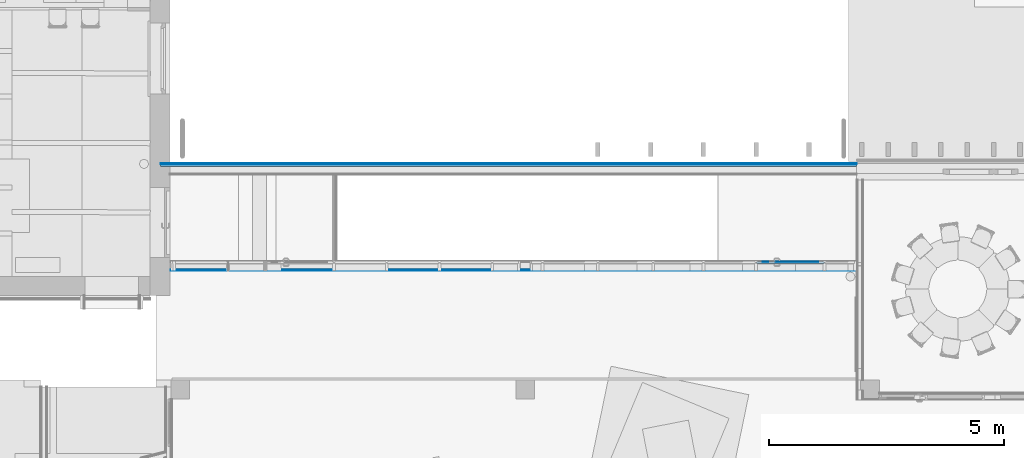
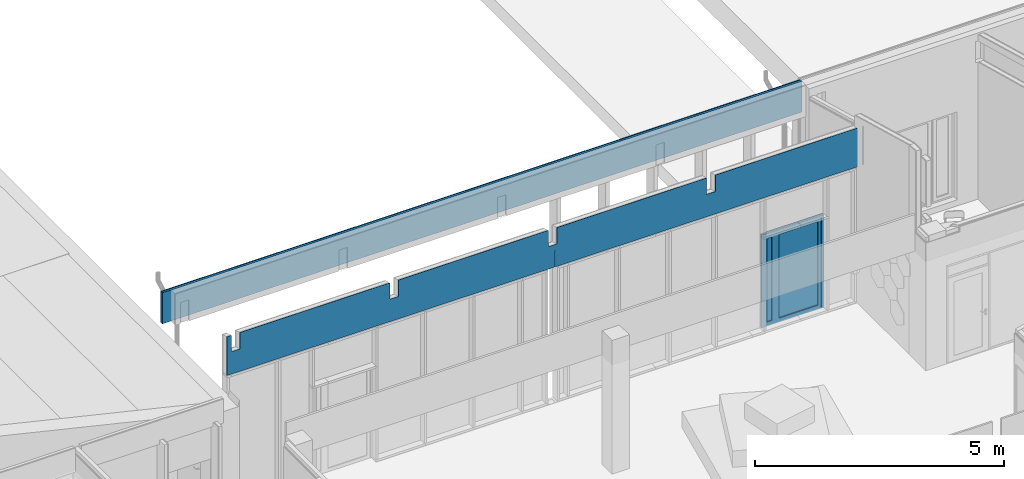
# One storey, part 64 of 153: 6 building element parts, 4 elements without a shape of their own.
"""IFC2X3 building model written with IfcOpenShell, lengths in millimetres."""

from ifc_helpers import new_model, entity, si_unit, converted_unit, derived_unit, money_unit, direction, frame, origin_with_axes, place, context, subcontext, project, spatial, faceted_brep, material, type_object, element, aggregate, save


model = new_model("IFC2X3")

# Units and contexts
model_context = context("Model", 3, precision=0.01, world=origin_with_axes(), true_north=direction((0.0, 1.0)))
body_context = subcontext(model_context, "Body", "Model", "MODEL_VIEW")
ifc_project = project(units=[si_unit("LENGTHUNIT", "METRE", prefix="MILLI"), si_unit("AREAUNIT", "SQUARE_METRE"), si_unit("VOLUMEUNIT", "CUBIC_METRE"), converted_unit("PLANEANGLEUNIT", "DEGREE", entity("IfcPlaneAngleMeasure", 0.0174532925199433), si_unit("PLANEANGLEUNIT", "RADIAN"), dimensions=[0, 0, 0, 0, 0, 0, 0]), money_unit("EUR"), converted_unit("TIMEUNIT", "Year", entity("IfcTimeMeasure", 31557600.0), si_unit("TIMEUNIT", "SECOND"), dimensions=[0, 0, 1, 0, 0, 0, 0]), si_unit("MASSUNIT", "GRAM", prefix="KILO"), si_unit("THERMODYNAMICTEMPERATUREUNIT", "DEGREE_CELSIUS"), si_unit("LUMINOUSINTENSITYUNIT", "LUMEN"), si_unit("ENERGYUNIT", "JOULE", prefix="MEGA"), derived_unit("THERMALCONDUCTANCEUNIT", [(si_unit("POWERUNIT", "WATT"), 1), (si_unit("LENGTHUNIT", "METRE"), -1), (si_unit("THERMODYNAMICTEMPERATUREUNIT", "KELVIN"), -1)]), derived_unit("SPECIFICHEATCAPACITYUNIT", [(si_unit("ENERGYUNIT", "JOULE"), 1), (si_unit("MASSUNIT", "GRAM", prefix="KILO"), -1), (si_unit("THERMODYNAMICTEMPERATUREUNIT", "KELVIN"), -1)]), derived_unit("MASSDENSITYUNIT", [(si_unit("MASSUNIT", "GRAM", prefix="KILO"), 1), (si_unit("VOLUMEUNIT", "CUBIC_METRE"), -1)])], contexts=[model_context])

# Site, building, storey
site_placement = place(None, frame((0.0, 0.0, 8650.0), z_axis=(0.0, 0.0, 1.0), x_axis=(1.0, 0.0, 0.0)))
site = spatial("IfcSite", under=ifc_project, at=site_placement, Name="43301:001:0844", CompositionType="ELEMENT")
building_placement = place(site_placement, origin_with_axes())
building = spatial("IfcBuilding", under=site, at=building_placement, Name="Kuressaare Ametikooli tuulikute mehaanikute õppekorpus", CompositionType="ELEMENT")
storey_placement = place(building_placement, frame((0.0, 0.0, 4100.0), z_axis=(0.0, 0.0, 1.0), x_axis=(1.0, 0.0, 0.0)))
storey = spatial("IfcBuildingStorey", under=building, at=storey_placement, Name="2.korrus", CompositionType="ELEMENT", Elevation=4100.0)

# Curtain wall, door, building element parts
curtain_wall_type = type_object("IfcCurtainWallType", Name="Curtain Wall Type", PredefinedType="NOTDEFINED")
curtain_wall_placement = place(storey_placement, frame((116907.3849272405, 26479.57374875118, 34.9999663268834), z_axis=(0.0, 0.0, 1.0), x_axis=(1.0, 0.0, 0.0)))
curtain_wall = element("IfcCurtainWall", 1, at=curtain_wall_placement, inside=storey, type_object=curtain_wall_type, Name="SKF-2.2,EI60")
door_style = type_object("IfcDoorStyle", Name="831 x 2290 x 40", ConstructionType="NOTDEFINED", OperationType="DOUBLE_DOOR_SINGLE_SWING", ParameterTakesPrecedence=False, Sizeable=False)
door_placement = place(curtain_wall_placement, frame((-2.12558859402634e-06, 0.0, 1150.00001559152), z_axis=(0.0, 0.0, 1.0), x_axis=(1.0, 0.0, 0.0)))
door = element("IfcDoor", 2, at=door_placement, type_object=door_style, Name="AKU10+4,EI30", OverallHeight=2250.0, OverallWidth=1410.0)
aggregate(curtain_wall, [door])
ifc_material_1 = material(Name="Aluminium")
building_element_part_1_placement = place(door_placement, origin_with_axes())
building_element_part_1 = element("IfcBuildingElementPart", 3, at=building_element_part_1_placement, material=ifc_material_1, Name="Aluminium", context=body_context, shape_type="Brep", body=[
    faceted_brep([(669.7177982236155, -25.00000000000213, -1125.000031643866), (669.7177982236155, -20.00000000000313, -1125.000031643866), (669.7177982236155, -20.00000000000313, 1125.000031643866), (669.7177982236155, -25.00000000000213, 1125.000031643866), (624.7177982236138, -25.00000000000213, -1125.000031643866), (624.7177982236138, -20.00000000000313, -1125.000031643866), (624.7177982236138, -20.00000000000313, 1080.000031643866), (624.7177982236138, -25.00000000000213, 1080.000031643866)], [[[0, 1, 2, 3]], [[4, 5, 1, 0]], [[1, 5, 6, 2]], [[3, 2, 6, 7]], [[0, 3, 7, 4]], [[7, 6, 5, 4]]]),
    faceted_brep([(-740.2822492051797, -25.00000000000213, 1125.000031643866), (-740.2822492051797, -20.00000000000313, 1125.000031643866), (-695.282249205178, -20.00000000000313, 1080.000031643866), (-695.282249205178, -25.00000000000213, 1080.000031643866), (669.7177982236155, -25.00000000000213, 1125.000031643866), (669.7177982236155, -20.00000000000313, 1125.000031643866), (624.7177982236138, -20.00000000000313, 1080.000031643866), (624.7177982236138, -25.00000000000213, 1080.000031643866)], [[[0, 1, 2, 3]], [[4, 5, 1, 0]], [[1, 5, 6, 2]], [[3, 2, 6, 7]], [[0, 3, 7, 4]], [[7, 6, 5, 4]]]),
    faceted_brep([(-740.2822492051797, -25.00000000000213, -1125.000031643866), (-740.2822492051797, -20.00000000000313, -1125.000031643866), (-695.282249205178, -20.00000000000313, -1125.000031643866), (-695.282249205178, -25.00000000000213, -1125.000031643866), (-740.2822492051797, -25.00000000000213, 1125.000031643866), (-740.2822492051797, -20.00000000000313, 1125.000031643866), (-695.282249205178, -20.00000000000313, 1080.000031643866), (-695.282249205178, -25.00000000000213, 1080.000031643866)], [[[0, 1, 2, 3]], [[4, 5, 1, 0]], [[1, 5, 6, 2]], [[3, 2, 6, 7]], [[0, 3, 7, 4]], [[7, 6, 5, 4]]]),
    faceted_brep([(669.7177982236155, -20.00000000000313, -1125.000031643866), (669.7177982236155, 29.99999999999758, -1125.000031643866), (669.7177982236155, 29.99999999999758, 1125.000031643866), (669.7177982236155, -20.00000000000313, 1125.000031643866), (634.717798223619, -20.00000000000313, -1125.000031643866), (634.717798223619, 29.99999999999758, -1125.000031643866), (634.717798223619, 29.99999999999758, 1090.000031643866), (634.717798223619, -20.00000000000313, 1090.000031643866)], [[[0, 1, 2, 3]], [[4, 5, 1, 0]], [[1, 5, 6, 2]], [[3, 2, 6, 7]], [[0, 3, 7, 4]], [[7, 6, 5, 4]]]),
    faceted_brep([(-740.2822492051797, -20.00000000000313, 1125.000031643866), (-740.2822492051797, 29.99999999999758, 1125.000031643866), (-705.2822492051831, 29.99999999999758, 1090.000031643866), (-705.2822492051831, -20.00000000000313, 1090.000031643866), (669.7177982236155, -20.00000000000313, 1125.000031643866), (669.7177982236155, 29.99999999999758, 1125.000031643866), (634.717798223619, 29.99999999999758, 1090.000031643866), (634.717798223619, -20.00000000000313, 1090.000031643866)], [[[0, 1, 2, 3]], [[4, 5, 1, 0]], [[1, 5, 6, 2]], [[3, 2, 6, 7]], [[0, 3, 7, 4]], [[7, 6, 5, 4]]]),
    faceted_brep([(-740.2822492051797, -20.00000000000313, -1125.000031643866), (-740.2822492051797, 29.99999999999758, -1125.000031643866), (-705.2822492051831, 29.99999999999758, -1125.000031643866), (-705.2822492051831, -20.00000000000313, -1125.000031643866), (-740.2822492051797, -20.00000000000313, 1125.000031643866), (-740.2822492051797, 29.99999999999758, 1125.000031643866), (-705.2822492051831, 29.99999999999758, 1090.000031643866), (-705.2822492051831, -20.00000000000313, 1090.000031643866)], [[[0, 1, 2, 3]], [[4, 5, 1, 0]], [[1, 5, 6, 2]], [[3, 2, 6, 7]], [[0, 3, 7, 4]], [[7, 6, 5, 4]]]),
    faceted_brep([(-760.2822226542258, -20.00000000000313, -1145.000005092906), (-760.2822226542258, 19.99999999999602, -1145.000005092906), (689.7177716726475, 19.99999999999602, -1145.000005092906), (689.7177716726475, -20.00000000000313, -1145.000005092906), (-740.2822492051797, -20.00000000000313, -1125.000031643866), (-740.2822492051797, 19.99999999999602, -1125.000031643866), (669.7177982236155, 19.99999999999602, -1125.000031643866), (669.7177982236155, -20.00000000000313, -1125.000031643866)], [[[0, 1, 2, 3]], [[4, 5, 1, 0]], [[1, 5, 6, 2]], [[3, 2, 6, 7]], [[0, 3, 7, 4]], [[7, 6, 5, 4]]]),
    faceted_brep([(689.7177716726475, -20.00000000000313, -1145.000005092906), (689.7177716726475, 19.99999999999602, -1145.000005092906), (689.7177716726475, 19.99999999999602, 1145.000005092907), (689.7177716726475, -20.00000000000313, 1145.000005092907), (669.7177982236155, -20.00000000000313, -1125.000031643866), (669.7177982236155, 19.99999999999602, -1125.000031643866), (669.7177982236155, 19.99999999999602, 1125.000031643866), (669.7177982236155, -20.00000000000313, 1125.000031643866)], [[[0, 1, 2, 3]], [[4, 5, 1, 0]], [[1, 5, 6, 2]], [[3, 2, 6, 7]], [[0, 3, 7, 4]], [[7, 6, 5, 4]]]),
    faceted_brep([(689.7177716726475, -20.00000000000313, 1145.000005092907), (689.7177716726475, 19.99999999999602, 1145.000005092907), (-760.2822226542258, 19.99999999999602, 1145.000005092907), (-760.2822226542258, -20.00000000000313, 1145.000005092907), (669.7177982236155, -20.00000000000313, 1125.000031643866), (669.7177982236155, 19.99999999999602, 1125.000031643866), (-740.2822492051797, 19.99999999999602, 1125.000031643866), (-740.2822492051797, -20.00000000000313, 1125.000031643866)], [[[0, 1, 2, 3]], [[4, 5, 1, 0]], [[1, 5, 6, 2]], [[3, 2, 6, 7]], [[0, 3, 7, 4]], [[7, 6, 5, 4]]]),
    faceted_brep([(-760.2822226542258, -20.00000000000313, 1145.000005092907), (-760.2822226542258, 19.99999999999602, 1145.000005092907), (-760.2822226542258, 19.99999999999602, -1145.000005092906), (-760.2822226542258, -20.00000000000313, -1145.000005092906), (-740.2822492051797, -20.00000000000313, 1125.000031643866), (-740.2822492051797, 19.99999999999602, 1125.000031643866), (-740.2822492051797, 19.99999999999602, -1125.000031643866), (-740.2822492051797, -20.00000000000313, -1125.000031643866)], [[[0, 1, 2, 3]], [[4, 5, 1, 0]], [[1, 5, 6, 2]], [[3, 2, 6, 7]], [[0, 3, 7, 4]], [[7, 6, 5, 4]]]),
    faceted_brep([(-625.2822492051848, -20.00000000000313, -1045.000031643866), (-625.2822492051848, 29.99999999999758, -1045.000031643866), (-625.2822492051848, 29.99999999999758, 1010.000031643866), (-625.2822492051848, -20.00000000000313, 1010.000031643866), (-705.2822492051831, -20.00000000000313, -1125.000031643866), (-705.2822492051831, 29.99999999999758, -1125.000031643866), (-705.2822492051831, 29.99999999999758, 1090.000031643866), (-705.2822492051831, -20.00000000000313, 1090.000031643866)], [[[0, 1, 2, 3]], [[4, 5, 1, 0]], [[1, 5, 6, 2]], [[3, 2, 6, 7]], [[0, 3, 7, 4]], [[7, 6, 5, 4]]]),
    faceted_brep([(-430.2822492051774, -20.00000000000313, -1125.000031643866), (-430.2822492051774, 29.99999999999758, -1125.000031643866), (-430.2822492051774, 29.99999999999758, 1090.000031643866), (-430.2822492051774, -20.00000000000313, 1090.000031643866), (-510.2822492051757, -20.00000000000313, -1045.000031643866), (-510.2822492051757, 29.99999999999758, -1045.000031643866), (-510.2822492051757, 29.99999999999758, 1010.000031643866), (-510.2822492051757, -20.00000000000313, 1010.000031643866)], [[[0, 1, 2, 3]], [[4, 5, 1, 0]], [[1, 5, 6, 2]], [[3, 2, 6, 7]], [[0, 3, 7, 4]], [[7, 6, 5, 4]]]),
    faceted_brep([(-430.2822492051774, -20.00000000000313, -1125.000031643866), (-430.2822492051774, 29.99999999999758, -1125.000031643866), (-510.2822492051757, 29.99999999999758, -1045.000031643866), (-510.2822492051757, -20.00000000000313, -1045.000031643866), (-705.2822492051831, -20.00000000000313, -1125.000031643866), (-705.2822492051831, 29.99999999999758, -1125.000031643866), (-625.2822492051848, 29.99999999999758, -1045.000031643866), (-625.2822492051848, -20.00000000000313, -1045.000031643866)], [[[0, 1, 2, 3]], [[4, 5, 1, 0]], [[1, 5, 6, 2]], [[3, 2, 6, 7]], [[0, 3, 7, 4]], [[7, 6, 5, 4]]]),
    faceted_brep([(-705.2822492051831, -20.00000000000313, 1090.000031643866), (-705.2822492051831, 29.99999999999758, 1090.000031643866), (-625.2822492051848, 29.99999999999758, 1010.000031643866), (-625.2822492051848, -20.00000000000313, 1010.000031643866), (-430.2822492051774, -20.00000000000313, 1090.000031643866), (-430.2822492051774, 29.99999999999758, 1090.000031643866), (-510.2822492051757, 29.99999999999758, 1010.000031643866), (-510.2822492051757, -20.00000000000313, 1010.000031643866)], [[[0, 1, 2, 3]], [[4, 5, 1, 0]], [[1, 5, 6, 2]], [[3, 2, 6, 7]], [[0, 3, 7, 4]], [[7, 6, 5, 4]]]),
    faceted_brep([(-350.2822492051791, -20.00000000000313, -1045.000031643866), (-350.2822492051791, 29.99999999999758, -1045.000031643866), (-350.2822492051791, 29.99999999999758, 1010.000031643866), (-350.2822492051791, -20.00000000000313, 1010.000031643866), (-430.2822492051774, -20.00000000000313, -1125.000031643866), (-430.2822492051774, 29.99999999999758, -1125.000031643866), (-430.2822492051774, 29.99999999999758, 1090.000031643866), (-430.2822492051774, -20.00000000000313, 1090.000031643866)], [[[0, 1, 2, 3]], [[4, 5, 1, 0]], [[1, 5, 6, 2]], [[3, 2, 6, 7]], [[0, 3, 7, 4]], [[7, 6, 5, 4]]]),
    faceted_brep([(634.717798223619, -20.00000000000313, -1125.000031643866), (634.717798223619, 29.99999999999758, -1125.000031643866), (634.717798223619, 29.99999999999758, 1090.000031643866), (634.717798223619, -20.00000000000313, 1090.000031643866), (554.7177982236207, -20.00000000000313, -1045.000031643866), (554.7177982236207, 29.99999999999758, -1045.000031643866), (554.7177982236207, 29.99999999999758, 1010.000031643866), (554.7177982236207, -20.00000000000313, 1010.000031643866)], [[[0, 1, 2, 3]], [[4, 5, 1, 0]], [[1, 5, 6, 2]], [[3, 2, 6, 7]], [[0, 3, 7, 4]], [[7, 6, 5, 4]]]),
    faceted_brep([(634.717798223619, -20.00000000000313, -1125.000031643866), (634.717798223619, 29.99999999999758, -1125.000031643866), (554.7177982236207, 29.99999999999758, -1045.000031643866), (554.7177982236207, -20.00000000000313, -1045.000031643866), (-430.2822492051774, -20.00000000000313, -1125.000031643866), (-430.2822492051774, 29.99999999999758, -1125.000031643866), (-350.2822492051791, 29.99999999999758, -1045.000031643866), (-350.2822492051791, -20.00000000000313, -1045.000031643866)], [[[0, 1, 2, 3]], [[4, 5, 1, 0]], [[1, 5, 6, 2]], [[3, 2, 6, 7]], [[0, 3, 7, 4]], [[7, 6, 5, 4]]]),
    faceted_brep([(-430.2822492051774, -20.00000000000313, 1090.000031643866), (-430.2822492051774, 29.99999999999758, 1090.000031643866), (-350.2822492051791, 29.99999999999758, 1010.000031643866), (-350.2822492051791, -20.00000000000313, 1010.000031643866), (634.717798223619, -20.00000000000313, 1090.000031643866), (634.717798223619, 29.99999999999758, 1090.000031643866), (554.7177982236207, 29.99999999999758, 1010.000031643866), (554.7177982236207, -20.00000000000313, 1010.000031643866)], [[[0, 1, 2, 3]], [[4, 5, 1, 0]], [[1, 5, 6, 2]], [[3, 2, 6, 7]], [[0, 3, 7, 4]], [[7, 6, 5, 4]]]),
])
ifc_material_2 = material(Name="Klaas")
building_element_part_2_placement = place(door_placement, origin_with_axes())
building_element_part_2 = element("IfcBuildingElementPart", 4, at=building_element_part_2_placement, material=ifc_material_2, Name="Klaas", context=body_context, shape_type="Brep", body=[
    faceted_brep([(-625.2822492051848, 3.999999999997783, -1045.000031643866), (-625.2822492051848, 19.99999999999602, -1045.000031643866), (-510.2822492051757, 19.99999999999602, -1045.000031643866), (-510.2822492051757, 3.999999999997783, -1045.000031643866), (-625.2822492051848, 3.999999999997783, 1010.000031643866), (-625.2822492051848, 19.99999999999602, 1010.000031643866), (-510.2822492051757, 19.99999999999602, 1010.000031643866), (-510.2822492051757, 3.999999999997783, 1010.000031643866)], [[[0, 1, 2, 3]], [[4, 5, 1, 0]], [[1, 5, 6, 2]], [[3, 2, 6, 7]], [[0, 3, 7, 4]], [[7, 6, 5, 4]]]),
    faceted_brep([(-350.2822492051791, 3.999999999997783, -1045.000031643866), (-350.2822492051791, 19.99999999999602, -1045.000031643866), (554.7177982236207, 19.99999999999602, -1045.000031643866), (554.7177982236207, 3.999999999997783, -1045.000031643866), (-350.2822492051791, 3.999999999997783, 1010.000031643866), (-350.2822492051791, 19.99999999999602, 1010.000031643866), (554.7177982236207, 19.99999999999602, 1010.000031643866), (554.7177982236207, 3.999999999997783, 1010.000031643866)], [[[0, 1, 2, 3]], [[4, 5, 1, 0]], [[1, 5, 6, 2]], [[3, 2, 6, 7]], [[0, 3, 7, 4]], [[7, 6, 5, 4]]]),
])
aggregate(door, [building_element_part_1, building_element_part_2])

# Wall, building element part
wall_type_1 = type_object("IfcWallType", Name="SS-2.1.1 197", PredefinedType="NOTDEFINED")
wall_1_placement = place(storey_placement, frame((103667.1026129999, 26509.57374875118, 3332.284635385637), z_axis=(0.0, 0.0, 1.0), x_axis=(1.0, 0.0, 0.0)))
wall_1 = element("IfcWall", 5, at=wall_1_placement, inside=storey, type_object=wall_type_1, Name="Sisesein")
ifc_material_3 = material(Name="Kipsplaat")
building_element_part_3_placement = place(wall_1_placement, origin_with_axes())
building_element_part_3 = element("IfcBuildingElementPart", 6, at=building_element_part_3_placement, material=ifc_material_3, Name="Kipsplaat", context=body_context, shape_type="Brep", body=[
    faceted_brep([(11325.84676160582, -183.9999999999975, 949.0460727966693), (14627.17311738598, -183.9999999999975, 949.0459519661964), (14627.17311738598, -183.9999999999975, 0.0), (7624.806998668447, -183.9999999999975, 0.0), (7624.806998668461, -183.9999999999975, 397.7153646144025), (7616.221472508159, -183.9999999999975, 397.7153646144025), (7616.221472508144, -183.9999999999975, 0.0), (7485.537835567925, -183.9999999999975, 0.0), (7485.537835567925, -183.9999999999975, 397.7153646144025), (7476.952309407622, -183.9999999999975, 397.7153646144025), (7476.952309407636, -183.9999999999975, 0.0), (0.0, -184.0000000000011, 0.0), (0.0, -184.0000000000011, 949.0464873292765), (100.8495287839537, -184.0000000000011, 949.046483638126), (100.8495287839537, -183.9999999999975, 544.9868433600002), (300.8495287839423, -183.9999999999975, 544.9868433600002), (300.8495287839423, -184.0000000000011, 949.0464763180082), (3775.846761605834, -184.0000000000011, 949.0463491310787), (3775.846761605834, -183.9999999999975, 544.9881190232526), (3975.846761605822, -183.9999999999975, 544.9881190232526), (3975.846761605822, -184.0000000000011, 949.0463418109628), (7450.846761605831, -183.9999999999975, 949.046214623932), (7450.846761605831, -183.9999999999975, 544.9881190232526), (7650.84676160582, -183.9999999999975, 544.9881190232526), (7650.84676160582, -183.9999999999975, 949.0462073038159), (11125.84676160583, -183.9999999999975, 949.0460801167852), (11125.84676160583, -183.9999999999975, 544.9868433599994), (11325.84676160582, -183.9999999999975, 544.9868433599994), (14627.17311738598, -196.9999999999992, 952.5974725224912), (11325.84676160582, -196.9999999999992, 952.597593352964), (14627.17311738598, -196.9999999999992, 0.0), (7616.196957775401, -196.9999999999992, 0.0), (7623.200162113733, -189.9967956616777, 0.0), (7623.200162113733, -189.9967956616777, 397.7153646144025), (7614.364935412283, -188.4820770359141, 397.7153646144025), (7616.196957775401, -196.9999999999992, 397.7153646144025), (7485.562350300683, -196.9999999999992, 397.7153646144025), (7478.55914596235, -189.9967956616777, 397.7153646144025), (7487.394372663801, -188.4820770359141, 397.7153646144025), (7495.879654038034, -191.9967956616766, 397.7153646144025), (7605.879654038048, -191.9967956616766, 397.7153646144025), (7614.364935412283, -188.4820770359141, 0.0), (7495.879654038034, -191.9967956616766, 0.0), (7487.394372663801, -188.4820770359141, 0.0), (7605.879654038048, -191.9967956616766, 0.0), (7478.55914596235, -189.9967956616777, 0.0), (7485.562350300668, -196.9999999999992, 0.0), (0.0, -196.9999999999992, 0.0), (0.0, -196.9999999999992, 952.5980078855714), (100.8495287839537, -196.9999999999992, 952.5980041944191), (100.8495287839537, -196.9999999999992, 548.4701815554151), (300.8495287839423, -196.9999999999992, 548.4701815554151), (300.8495287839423, -196.9999999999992, 952.597996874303), (3775.846761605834, -196.9999999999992, 952.5978696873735), (3775.846761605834, -196.9999999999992, 548.4714572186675), (3975.846761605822, -196.9999999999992, 548.4714572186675), (3975.846761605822, -196.9999999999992, 952.5978623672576), (7450.846761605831, -196.9999999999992, 952.5977351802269), (7450.846761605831, -196.9999999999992, 548.4714572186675), (7650.84676160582, -196.9999999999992, 548.4714572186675), (7650.84676160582, -196.9999999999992, 952.5977278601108), (11125.84676160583, -196.9999999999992, 952.59760067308), (11125.84676160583, -196.9999999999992, 548.4701815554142), (11325.84676160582, -196.9999999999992, 548.4701815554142)], [[[0, 1, 2, 3, 4, 5, 6, 7, 8, 9, 10, 11, 12, 13, 14, 15, 16, 17, 18, 19, 20, 21, 22, 23, 24, 25, 26, 27]], [[28, 1, 0, 29]], [[1, 28, 30, 2]], [[31, 32, 3, 2, 30]], [[33, 4, 3, 32]], [[34, 5, 4, 33, 35, 36, 37, 9, 8, 38, 39, 40]], [[41, 6, 5, 34]], [[42, 43, 7, 6, 41, 44]], [[8, 7, 43, 38]], [[37, 45, 10, 9]], [[10, 45, 46, 47, 11]], [[48, 12, 11, 47]], [[49, 13, 12, 48]], [[13, 49, 50, 14]], [[50, 51, 15, 14]], [[52, 16, 15, 51]], [[53, 17, 16, 52]], [[17, 53, 54, 18]], [[54, 55, 19, 18]], [[56, 20, 19, 55]], [[57, 21, 20, 56]], [[21, 57, 58, 22]], [[58, 59, 23, 22]], [[60, 24, 23, 59]], [[61, 25, 24, 60]], [[25, 61, 62, 26]], [[62, 63, 27, 26]], [[29, 0, 27, 63]], [[28, 29, 63, 62, 61, 60, 59, 58, 57, 56, 55, 54, 53, 52, 51, 50, 49, 48, 47, 46, 36, 35, 31, 30]], [[33, 32, 31, 35]], [[37, 36, 46, 45]], [[38, 43, 42, 39]], [[39, 42, 44, 40]], [[40, 44, 41, 34]]]),
    faceted_brep([(14748.17311738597, -183.9999999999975, 949.0459475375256), (14761.17311738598, -183.9999999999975, 949.0459470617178), (14761.17311738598, -183.9999999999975, 0.0), (14748.17311738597, -183.9999999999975, 0.0), (14761.17311738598, -196.9999999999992, 952.5974676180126), (14748.17311738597, -196.9999999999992, 952.5974680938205), (14761.17311738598, -196.9999999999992, 0.0), (14748.17311738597, -196.9999999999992, 0.0)], [[[0, 1, 2, 3]], [[4, 1, 0, 5]], [[1, 4, 6, 2]], [[3, 2, 6, 7]], [[5, 0, 3, 7]], [[4, 5, 7, 6]]]),
])
aggregate(wall_1, [building_element_part_3])

# Wall, building element parts
wall_type_2 = type_object("IfcWallType", Name="VS_klaasfassaadi peal 246", PredefinedType="NOTDEFINED")
wall_2_placement = place(storey_placement, frame((103647.5122070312, 28356.59477213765, 3332.284635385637), z_axis=(0.0, 0.0, 1.0), x_axis=(1.0, 0.0, 0.0)))
wall_2 = element("IfcWall", 7, at=wall_2_placement, inside=storey, type_object=wall_type_2, Name="Välissein")
ifc_material_4 = material(Name="Air Space - Frame")
building_element_part_4_placement = place(wall_2_placement, origin_with_axes())
building_element_part_4 = element("IfcBuildingElementPart", 8, at=building_element_part_4_placement, material=ifc_material_4, Name="Air Space - Frame", context=body_context, shape_type="Brep", body=[
    faceted_brep([(14633.76352335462, 223.0000000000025, 762.3602261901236), (14633.76352335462, 243.0000000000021, 762.3602261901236), (-200.0001331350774, 242.9999999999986, 762.3602261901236), (-200.000120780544, 222.999999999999, 762.3602261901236), (14633.76352335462, 223.0000000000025, 0.0), (14633.76352335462, 243.0000000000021, 0.0), (-200.0001331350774, 242.9999999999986, 0.0), (-200.000120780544, 222.999999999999, 0.0)], [[[0, 1, 2, 3]], [[0, 4, 5, 1]], [[1, 5, 6, 2]], [[3, 2, 6, 7]], [[4, 0, 3, 7]], [[5, 4, 7, 6]]]),
])
ifc_material_5 = material(Name="Soojustus - Mineraalvill jäik")
building_element_part_5_placement = place(wall_2_placement, origin_with_axes())
building_element_part_5 = element("IfcBuildingElementPart", 9, at=building_element_part_5_placement, material=ifc_material_5, Name="Soojustus - Mineraalvill jäik", context=body_context, shape_type="Brep", body=[
    faceted_brep([(14633.76352335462, 173.0000000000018, 762.3602261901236), (14633.76352335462, 223.0000000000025, 762.3602261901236), (-200.000120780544, 222.999999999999, 762.3602261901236), (-200.0000898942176, 173.0000000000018, 762.3602261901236), (14633.76352335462, 173.0000000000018, 0.0), (14633.76352335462, 223.0000000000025, 0.0), (-200.000120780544, 222.999999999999, 0.0), (-200.0000898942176, 172.9999999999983, 0.0)], [[[0, 1, 2, 3]], [[0, 4, 5, 1]], [[1, 5, 6, 2]], [[3, 2, 6, 7]], [[4, 0, 3, 7]], [[5, 4, 7, 6]]]),
])
ifc_material_6 = material(Name="GENEERILINE - VÄLINE VOODER")
building_element_part_6_placement = place(wall_2_placement, origin_with_axes())
building_element_part_6 = element("IfcBuildingElementPart", 10, at=building_element_part_6_placement, material=ifc_material_6, Name="GENEERILINE - VÄLINE VOODER", context=body_context, shape_type="Brep", body=[
    faceted_brep([(14633.76352335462, 243.0000000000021, 762.3602261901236), (14633.76352335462, 246.0000000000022, 762.3602261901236), (-200.0001349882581, 245.9999999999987, 762.3602261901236), (-200.0001331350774, 242.9999999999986, 762.3602261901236), (14633.76352335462, 243.0000000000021, 0.0), (14633.76352335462, 246.0000000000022, 0.0), (-200.0001349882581, 245.9999999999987, 0.0), (-200.0001331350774, 242.9999999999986, 0.0)], [[[0, 1, 2, 3]], [[0, 4, 5, 1]], [[1, 5, 6, 2]], [[3, 2, 6, 7]], [[4, 0, 3, 7]], [[5, 4, 7, 6]]]),
])
aggregate(wall_2, [building_element_part_4, building_element_part_5, building_element_part_6])

save(model, "model.ifc")
